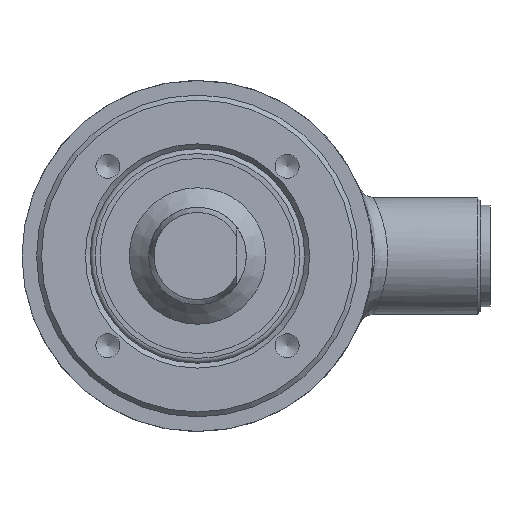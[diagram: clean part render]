
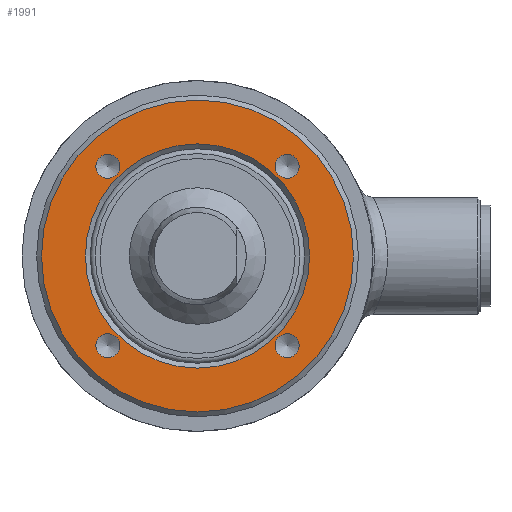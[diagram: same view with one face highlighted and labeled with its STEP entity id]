
A CAD part, left-side view. The second image highlights one B-rep face of the part: STEP entity #1991.
In plain terms, the highlighted planar face has unit normal (-1, 0, 0).
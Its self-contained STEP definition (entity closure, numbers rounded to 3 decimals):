
#1612=CARTESIAN_POINT('',(-21.0,11.5,0.));
#1613=VERTEX_POINT('',#1612);
#1614=CARTESIAN_POINT('',(-21.0,0.0,0.0));
#1615=DIRECTION('',(-1.0,0.0,0.0));
#1616=DIRECTION('',(0.0,-1.0,0.0));
#1617=AXIS2_PLACEMENT_3D('',#1614,#1615,#1616);
#1618=CIRCLE('',#1617,11.5);
#1619=EDGE_CURVE('',#1613,#1613,#1618,.T.);
#1650=CARTESIAN_POINT('',(-21.0,9.192,-7.963));
#1651=VERTEX_POINT('',#1650);
#1652=CARTESIAN_POINT('',(-21.0,9.192,-9.192));
#1653=DIRECTION('',(1.0,0.0,0.0));
#1654=DIRECTION('',(0.0,0.0,1.0));
#1655=AXIS2_PLACEMENT_3D('',#1652,#1653,#1654);
#1656=CIRCLE('',#1655,1.23);
#1657=EDGE_CURVE('',#1651,#1651,#1656,.T.);
#1729=CARTESIAN_POINT('',(-21.0,-7.963,-9.192));
#1730=VERTEX_POINT('',#1729);
#1731=CARTESIAN_POINT('',(-21.0,-9.192,-9.192));
#1732=DIRECTION('',(1.0,0.0,0.0));
#1733=DIRECTION('',(0.0,1.0,0.0));
#1734=AXIS2_PLACEMENT_3D('',#1731,#1732,#1733);
#1735=CIRCLE('',#1734,1.23);
#1736=EDGE_CURVE('',#1730,#1730,#1735,.T.);
#1808=CARTESIAN_POINT('',(-21.0,-9.192,7.963));
#1809=VERTEX_POINT('',#1808);
#1810=CARTESIAN_POINT('',(-21.0,-9.192,9.192));
#1811=DIRECTION('',(1.0,0.0,0.0));
#1812=DIRECTION('',(0.0,0.0,-1.0));
#1813=AXIS2_PLACEMENT_3D('',#1810,#1811,#1812);
#1814=CIRCLE('',#1813,1.23);
#1815=EDGE_CURVE('',#1809,#1809,#1814,.T.);
#1887=CARTESIAN_POINT('',(-21.0,7.963,9.192));
#1888=VERTEX_POINT('',#1887);
#1889=CARTESIAN_POINT('',(-21.0,9.192,9.192));
#1890=DIRECTION('',(1.0,0.0,0.0));
#1891=DIRECTION('',(0.0,-1.0,0.0));
#1892=AXIS2_PLACEMENT_3D('',#1889,#1890,#1891);
#1893=CIRCLE('',#1892,1.23);
#1894=EDGE_CURVE('',#1888,#1888,#1893,.T.);
#1960=CARTESIAN_POINT('',(-21.0,13.75,0.0));
#1961=DIRECTION('',(-1.0,0.0,0.0));
#1962=DIRECTION('',(0.0,0.0,1.0));
#1963=AXIS2_PLACEMENT_3D('',#1960,#1961,#1962);
#1964=PLANE('',#1963);
#1965=CARTESIAN_POINT('',(-21.0,16.0,0.));
#1966=VERTEX_POINT('',#1965);
#1967=CARTESIAN_POINT('',(-21.0,0.0,0.0));
#1968=DIRECTION('',(1.0,0.0,0.0));
#1969=DIRECTION('',(0.0,-1.0,0.0));
#1970=AXIS2_PLACEMENT_3D('',#1967,#1968,#1969);
#1971=CIRCLE('',#1970,16.0);
#1972=EDGE_CURVE('',#1966,#1966,#1971,.T.);
#1973=ORIENTED_EDGE('',*,*,#1972,.F.);
#1974=EDGE_LOOP('',(#1973));
#1975=FACE_OUTER_BOUND('',#1974,.T.);
#1976=ORIENTED_EDGE('',*,*,#1619,.F.);
#1977=EDGE_LOOP('',(#1976));
#1978=FACE_BOUND('',#1977,.T.);
#1979=ORIENTED_EDGE('',*,*,#1657,.T.);
#1980=EDGE_LOOP('',(#1979));
#1981=FACE_BOUND('',#1980,.T.);
#1982=ORIENTED_EDGE('',*,*,#1736,.T.);
#1983=EDGE_LOOP('',(#1982));
#1984=FACE_BOUND('',#1983,.T.);
#1985=ORIENTED_EDGE('',*,*,#1815,.T.);
#1986=EDGE_LOOP('',(#1985));
#1987=FACE_BOUND('',#1986,.T.);
#1988=ORIENTED_EDGE('',*,*,#1894,.T.);
#1989=EDGE_LOOP('',(#1988));
#1990=FACE_BOUND('',#1989,.T.);
#1991=ADVANCED_FACE('',(#1975,#1978,#1981,#1984,#1987,#1990),#1964,.T.);
